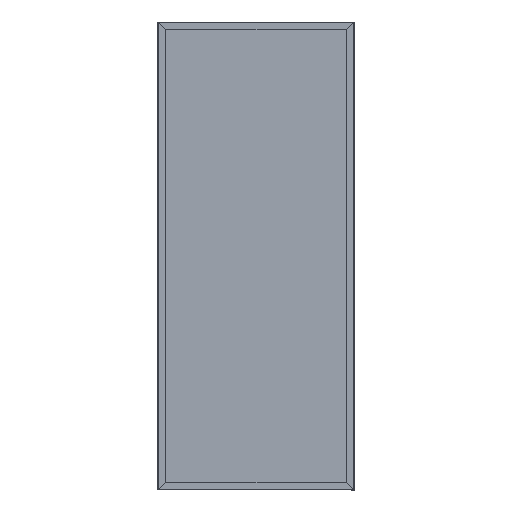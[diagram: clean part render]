
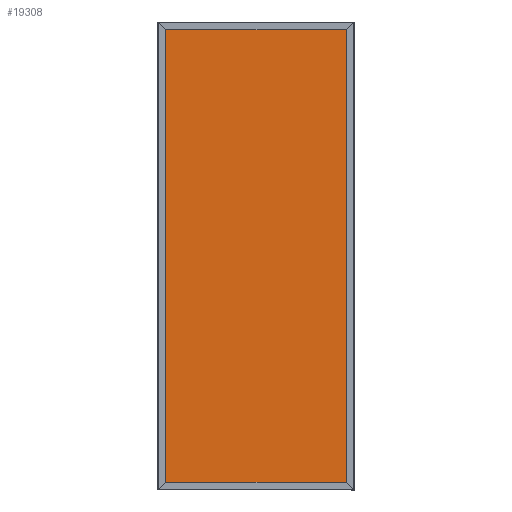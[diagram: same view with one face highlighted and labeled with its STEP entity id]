
A CAD part, top view. The second image highlights one B-rep face of the part: STEP entity #19308.
In plain terms, the highlighted planar face has unit normal (0, 0, 1).
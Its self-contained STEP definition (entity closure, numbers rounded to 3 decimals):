
#3001 = VECTOR ( 'NONE', #18509, 1000. ) ;
#3632 = LINE ( 'NONE', #12806, #16215 ) ;
#3779 = AXIS2_PLACEMENT_3D ( 'NONE', #16010, #6675, #27749 ) ;
#5311 = EDGE_CURVE ( 'NONE', #26003, #27308, #24977, .T. ) ;
#5615 = EDGE_CURVE ( 'NONE', #9393, #26003, #21640, .T. ) ;
#5906 = CARTESIAN_POINT ( 'NONE',  ( 465.07, -1162.2, -13.25 ) ) ;
#6104 = DIRECTION ( 'NONE',  ( 0., 1., 0. ) ) ;
#6675 = DIRECTION ( 'NONE',  ( 0., 0., -1. ) ) ;
#6838 = FACE_OUTER_BOUND ( 'NONE', #19156, .T. ) ;
#7816 = CARTESIAN_POINT ( 'NONE',  ( 465.07, 0., -13.25 ) ) ;
#9393 = VERTEX_POINT ( 'NONE', #5906 ) ;
#12806 = CARTESIAN_POINT ( 'NONE',  ( 0., -1162.2, -13.25 ) ) ;
#13676 = ORIENTED_EDGE ( 'NONE', *, *, #5311, .T. ) ;
#14376 = VECTOR ( 'NONE', #6104, 1000. ) ;
#14532 = VECTOR ( 'NONE', #17422, 1000. ) ;
#16010 = CARTESIAN_POINT ( 'NONE',  ( 0., 0., -13.25 ) ) ;
#16215 = VECTOR ( 'NONE', #21971, 1000. ) ;
#16549 = CARTESIAN_POINT ( 'NONE',  ( 465.07, 1162.2, -13.25 ) ) ;
#16983 = CARTESIAN_POINT ( 'NONE',  ( -465.07, -1162.2, -13.25 ) ) ;
#17422 = DIRECTION ( 'NONE',  ( 0., 1., 0. ) ) ;
#17690 = CARTESIAN_POINT ( 'NONE',  ( -465.07, 0., -13.25 ) ) ;
#18509 = DIRECTION ( 'NONE',  ( -1., 0., 0. ) ) ;
#18831 = VERTEX_POINT ( 'NONE', #16983 ) ;
#19156 = EDGE_LOOP ( 'NONE', ( #28606, #26507, #24442, #13676 ) ) ;
#19308 = ADVANCED_FACE ( 'NONE', ( #6838 ), #22628, .F. ) ;
#20113 = CARTESIAN_POINT ( 'NONE',  ( -465.07, 1162.2, -13.25 ) ) ;
#21640 = LINE ( 'NONE', #7816, #14532 ) ;
#21971 = DIRECTION ( 'NONE',  ( -1., 0., 0. ) ) ;
#22628 = PLANE ( 'NONE',  #3779 ) ;
#22714 = CARTESIAN_POINT ( 'NONE',  ( 0., 1162.2, -13.25 ) ) ;
#24442 = ORIENTED_EDGE ( 'NONE', *, *, #5615, .T. ) ;
#24977 = LINE ( 'NONE', #22714, #3001 ) ;
#26003 = VERTEX_POINT ( 'NONE', #16549 ) ;
#26507 = ORIENTED_EDGE ( 'NONE', *, *, #27028, .F. ) ;
#27025 = LINE ( 'NONE', #17690, #14376 ) ;
#27028 = EDGE_CURVE ( 'NONE', #9393, #18831, #3632, .T. ) ;
#27308 = VERTEX_POINT ( 'NONE', #20113 ) ;
#27749 = DIRECTION ( 'NONE',  ( -1., 0., 0. ) ) ;
#28463 = EDGE_CURVE ( 'NONE', #18831, #27308, #27025, .T. ) ;
#28606 = ORIENTED_EDGE ( 'NONE', *, *, #28463, .F. ) ;
